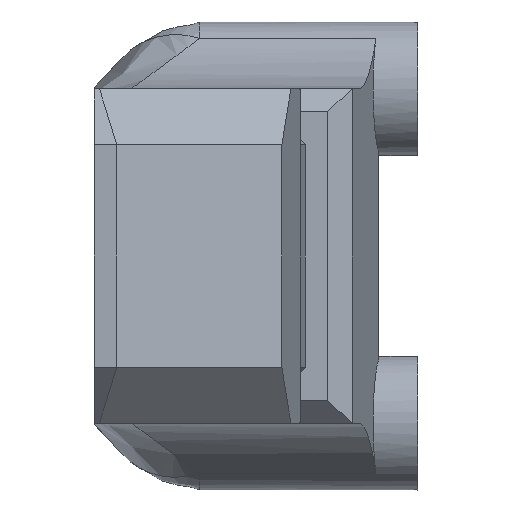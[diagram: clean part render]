
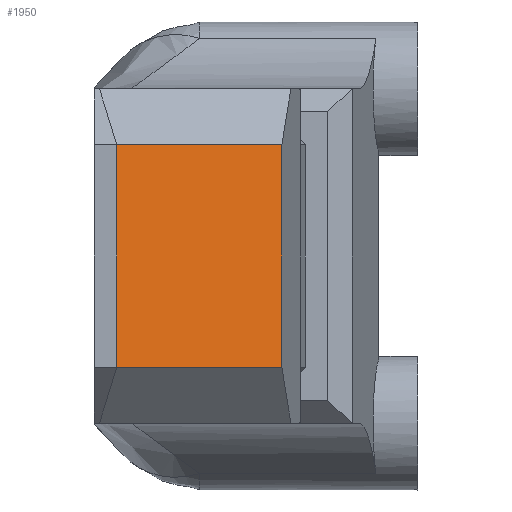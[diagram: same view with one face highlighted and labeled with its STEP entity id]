
A CAD part, front view. The second image highlights one B-rep face of the part: STEP entity #1950.
In plain terms, the highlighted planar face has unit normal (0.564, -0.826, 0).
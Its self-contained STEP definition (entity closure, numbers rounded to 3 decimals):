
#155=PLANE('',#2112);
#269=FACE_OUTER_BOUND('',#388,.T.);
#388=EDGE_LOOP('',(#1787,#1788,#1789,#1790));
#532=LINE('',#3305,#729);
#588=LINE('',#3838,#785);
#589=LINE('',#3841,#786);
#591=LINE('',#3844,#788);
#729=VECTOR('',#2404,10.);
#785=VECTOR('',#2582,10.);
#786=VECTOR('',#2585,10.);
#788=VECTOR('',#2589,10.);
#929=VERTEX_POINT('',#3302);
#930=VERTEX_POINT('',#3304);
#994=VERTEX_POINT('',#3834);
#995=VERTEX_POINT('',#3840);
#1162=EDGE_CURVE('',#930,#929,#532,.T.);
#1264=EDGE_CURVE('',#930,#994,#588,.T.);
#1265=EDGE_CURVE('',#994,#995,#589,.T.);
#1267=EDGE_CURVE('',#995,#929,#591,.T.);
#1787=ORIENTED_EDGE('',*,*,#1264,.F.);
#1788=ORIENTED_EDGE('',*,*,#1162,.T.);
#1789=ORIENTED_EDGE('',*,*,#1267,.F.);
#1790=ORIENTED_EDGE('',*,*,#1265,.F.);
#1950=ADVANCED_FACE('',(#269),#155,.T.);
#2112=AXIS2_PLACEMENT_3D('',#3843,#2587,#2588);
#2404=DIRECTION('',(0.,0.,1.));
#2582=DIRECTION('',(-0.826,-0.564,0.));
#2585=DIRECTION('',(0.,0.,1.));
#2587=DIRECTION('center_axis',(0.564,-0.826,0.));
#2588=DIRECTION('ref_axis',(0.826,0.564,0.));
#2589=DIRECTION('',(0.826,0.564,0.));
#3302=CARTESIAN_POINT('',(-242.366,104.007,-12.567));
#3304=CARTESIAN_POINT('',(-242.366,104.007,-32.567));
#3305=CARTESIAN_POINT('',(-242.366,104.007,-22.567));
#3834=CARTESIAN_POINT('',(-257.186,93.876,-32.567));
#3838=CARTESIAN_POINT('',(-238.069,106.945,-32.567));
#3840=CARTESIAN_POINT('',(-257.186,93.876,-12.567));
#3841=CARTESIAN_POINT('',(-257.186,93.876,-22.567));
#3843=CARTESIAN_POINT('Origin',(-257.186,93.876,-22.567));
#3844=CARTESIAN_POINT('',(-238.069,106.945,-12.567));
